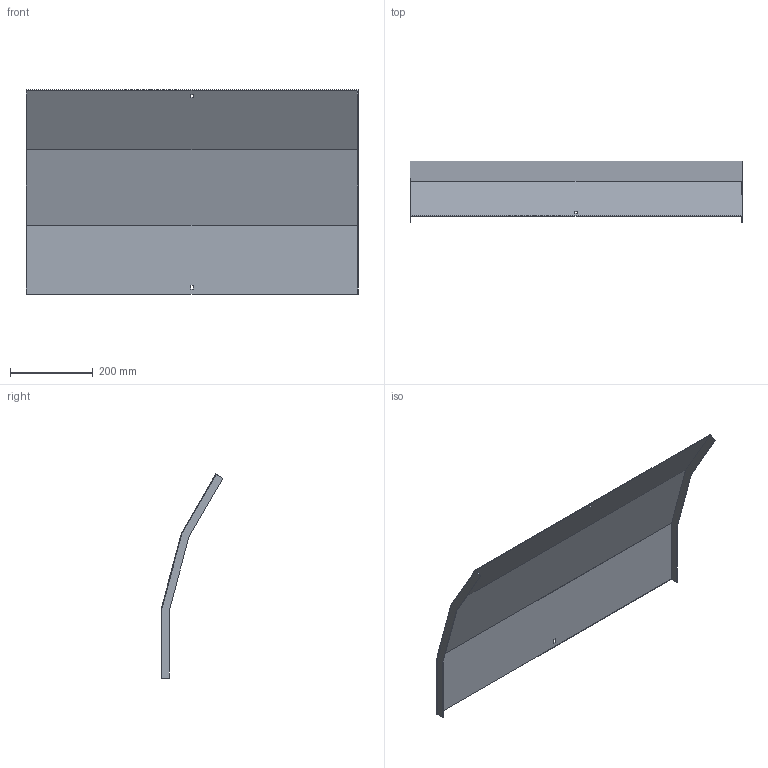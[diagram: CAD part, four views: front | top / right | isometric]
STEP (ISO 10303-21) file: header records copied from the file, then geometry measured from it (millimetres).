
FILE_DESCRIPTION (( 'STEP AP214' ), '1' );
FILE_NAME ('A2_35N3J800.step', '2025-02-21T10:31:35', ( '' ), ( '' ), 'SwSTEP 2.0', 'SolidWorks 2023', '' );
FILE_SCHEMA (( 'AUTOMOTIVE_DESIGN' ));
Length unit declared in the file: millimetre
Products named in the file (1): A2_35N3J800
Bounding box: 803 x 149.62 x 493.76 mm (x, y, z)
Volume: 657425.2 mm3; surface area: 880717.1 mm2
Topology: 1 solids, 1 shells, 26 faces, 72 edges, 48 vertices
Faces by surface type: plane 26
Entity records: 847 total; most frequent: CARTESIAN_POINT 147, ORIENTED_EDGE 144, DIRECTION 126, EDGE_CURVE 72, VECTOR 72, LINE 72, VERTEX_POINT 48, EDGE_LOOP 30
